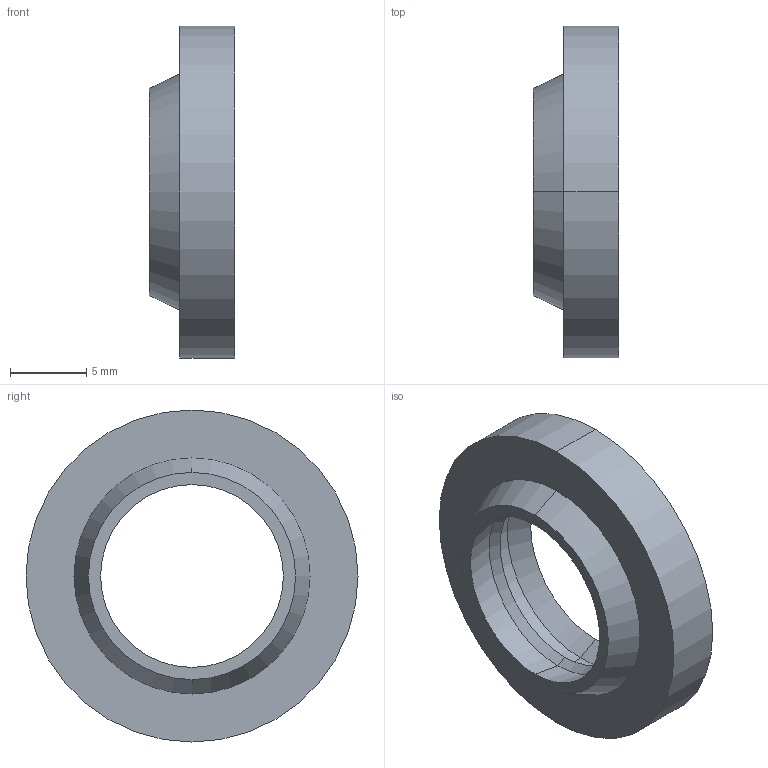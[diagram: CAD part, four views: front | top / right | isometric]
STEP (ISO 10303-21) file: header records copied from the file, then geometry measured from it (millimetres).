
FILE_DESCRIPTION (( 'STEP AP214' ), '1' );
FILE_NAME ('PAW01-12.STEP', '2011-03-11T11:55:44', ( '' ), ( '' ), 'SwSTEP 2.0', 'SolidWorks 2010', '' );
FILE_SCHEMA (( 'AUTOMOTIVE_DESIGN' ));
Length unit declared in the file: millimetre
Products named in the file (1): PAW01-12
Bounding box: 5.6 x 21.8 x 21.8 mm (x, y, z)
Volume: 962.4 mm3; surface area: 1081 mm2
Topology: 1 solids, 1 shells, 17 faces, 34 edges, 20 vertices
Faces by surface type: cone 10, cylinder 4, plane 3
Entity records: 482 total; most frequent: DIRECTION 90, CARTESIAN_POINT 72, ORIENTED_EDGE 68, AXIS2_PLACEMENT_3D 38, EDGE_CURVE 34, CIRCLE 20, EDGE_LOOP 20, VERTEX_POINT 20
